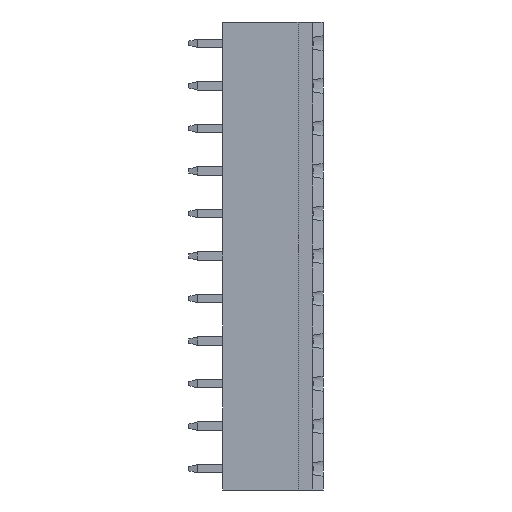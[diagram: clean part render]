
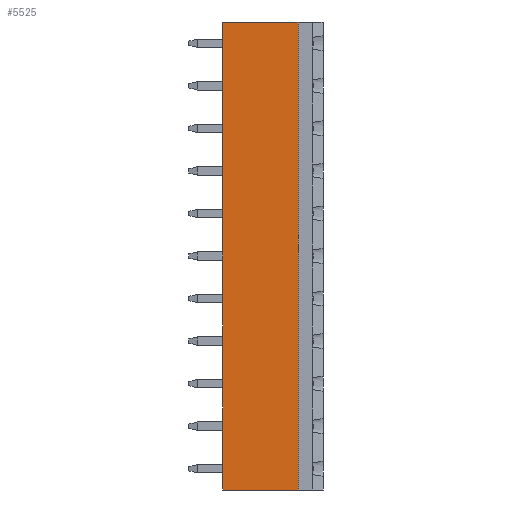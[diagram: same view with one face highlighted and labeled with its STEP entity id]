
A CAD part, left-side view. The second image highlights one B-rep face of the part: STEP entity #5525.
In plain terms, the highlighted planar face has unit normal (-1, 0, 0).
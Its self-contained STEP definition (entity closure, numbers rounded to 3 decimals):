
#93 = CARTESIAN_POINT ( 'NONE',  ( -3.9, 12., 0. ) ) ;
#1969 = VECTOR ( 'NONE', #6071, 1000. ) ;
#2303 = VERTEX_POINT ( 'NONE', #11246 ) ;
#2832 = CARTESIAN_POINT ( 'NONE',  ( -3.9, 12., 0. ) ) ;
#3681 = LINE ( 'NONE', #7893, #1969 ) ;
#5344 = VECTOR ( 'NONE', #12985, 1000. ) ;
#5494 = EDGE_CURVE ( 'NONE', #19978, #23364, #15360, .T. ) ;
#5525 = ADVANCED_FACE ( 'NONE', ( #19156 ), #14819, .T. ) ;
#6071 = DIRECTION ( 'NONE',  ( 0., -1., 0. ) ) ;
#7241 = CARTESIAN_POINT ( 'NONE',  ( -3.9, 12., 55.88 ) ) ;
#7893 = CARTESIAN_POINT ( 'NONE',  ( -3.9, 12., 55.88 ) ) ;
#7974 = ORIENTED_EDGE ( 'NONE', *, *, #5494, .T. ) ;
#11246 = CARTESIAN_POINT ( 'NONE',  ( -3.9, 3., 55.88 ) ) ;
#11388 = DIRECTION ( 'NONE',  ( 0., 0., 1. ) ) ;
#12985 = DIRECTION ( 'NONE',  ( 0., -1., 0. ) ) ;
#14819 = PLANE ( 'NONE',  #26818 ) ;
#14953 = DIRECTION ( 'NONE',  ( -1., 0., 0. ) ) ;
#15360 = LINE ( 'NONE', #27554, #5344 ) ;
#15827 = ORIENTED_EDGE ( 'NONE', *, *, #22560, .F. ) ;
#16300 = LINE ( 'NONE', #24831, #21420 ) ;
#16381 = VERTEX_POINT ( 'NONE', #7241 ) ;
#17223 = EDGE_CURVE ( 'NONE', #19978, #16381, #22014, .T. ) ;
#19156 = FACE_OUTER_BOUND ( 'NONE', #23984, .T. ) ;
#19300 = DIRECTION ( 'NONE',  ( 0., 0., 1. ) ) ;
#19978 = VERTEX_POINT ( 'NONE', #21988 ) ;
#21420 = VECTOR ( 'NONE', #24968, 1000. ) ;
#21988 = CARTESIAN_POINT ( 'NONE',  ( -3.9, 12., 0. ) ) ;
#22014 = LINE ( 'NONE', #2832, #25309 ) ;
#22560 = EDGE_CURVE ( 'NONE', #2303, #23364, #16300, .T. ) ;
#23185 = CARTESIAN_POINT ( 'NONE',  ( -3.9, 3., 0. ) ) ;
#23364 = VERTEX_POINT ( 'NONE', #23185 ) ;
#23984 = EDGE_LOOP ( 'NONE', ( #7974, #15827, #25993, #24035 ) ) ;
#24035 = ORIENTED_EDGE ( 'NONE', *, *, #17223, .F. ) ;
#24831 = CARTESIAN_POINT ( 'NONE',  ( -3.9, 3., 55.88 ) ) ;
#24968 = DIRECTION ( 'NONE',  ( 0., 0., -1. ) ) ;
#25309 = VECTOR ( 'NONE', #11388, 1000. ) ;
#25993 = ORIENTED_EDGE ( 'NONE', *, *, #26937, .F. ) ;
#26818 = AXIS2_PLACEMENT_3D ( 'NONE', #93, #14953, #19300 ) ;
#26937 = EDGE_CURVE ( 'NONE', #16381, #2303, #3681, .T. ) ;
#27554 = CARTESIAN_POINT ( 'NONE',  ( -3.9, 12., 0. ) ) ;
